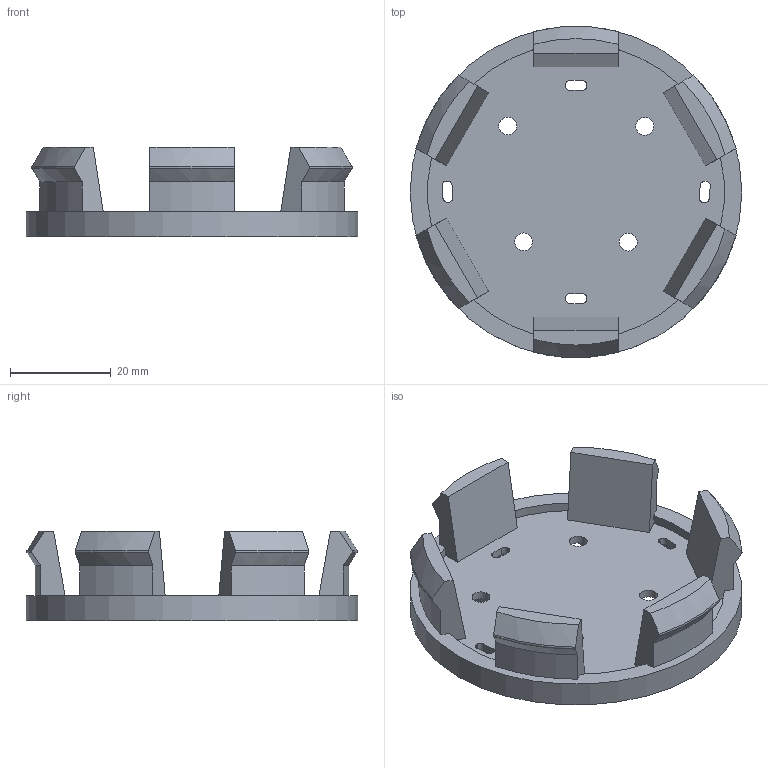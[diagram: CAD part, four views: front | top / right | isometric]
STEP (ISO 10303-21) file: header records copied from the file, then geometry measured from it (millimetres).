
FILE_DESCRIPTION(/* description */ (''),/* implementation_level */ '2;1');
FILE_NAME(/* name */ 'Base_66mm.step',/* time_stamp */ '2024-05-23T20:06:37+02:00',/* author */ (''),/* organization */ (''),/* preprocessor_version */ 'ST-DEVELOPER v20',/* originating_system */ 'Autodesk Translation Framework v12.20.1.177',/* authorisation */ '');
FILE_SCHEMA (('AUTOMOTIVE_DESIGN { 1 0 10303 214 3 1 1 }'));
Length unit declared in the file: millimetre
Products named in the file (1): Hondaemblem
Bounding box: 65.8 x 65.8 x 17.85 mm (x, y, z)
Volume: 17467.6 mm3; surface area: 12086.9 mm2
Topology: 1 solids, 1 shells, 202 faces, 588 edges, 392 vertices
Faces by surface type: cylinder 113, plane 71, cone 12, torus 6
Full cylindrical faces by diameter (mm): 3.536 x4, 65.8 x1
Entity records: 6920 total; most frequent: CARTESIAN_POINT 1351, DIRECTION 1202, ORIENTED_EDGE 1176, EDGE_CURVE 588, AXIS2_PLACEMENT_3D 447, VERTEX_POINT 392, LINE 308, VECTOR 308
